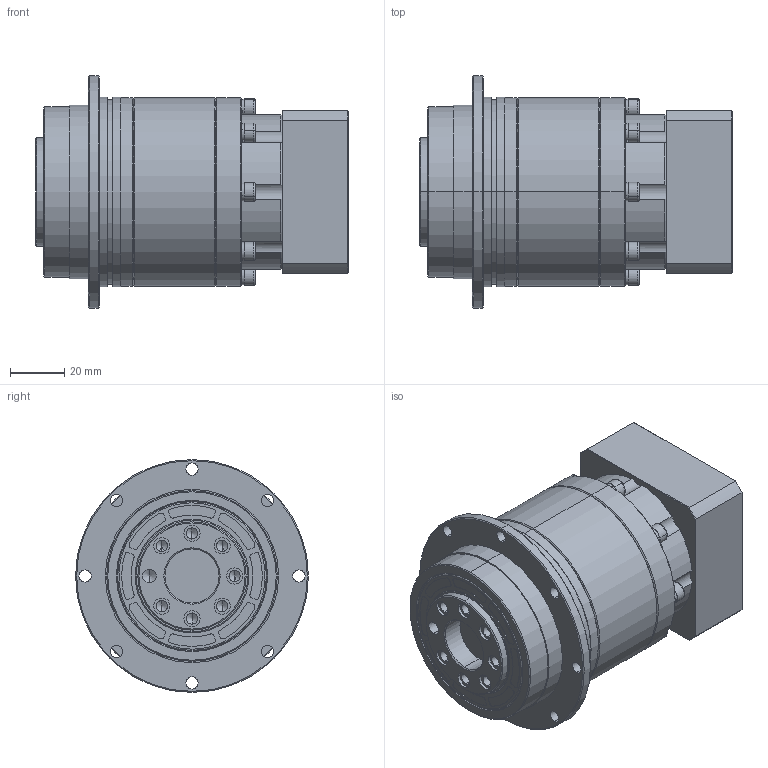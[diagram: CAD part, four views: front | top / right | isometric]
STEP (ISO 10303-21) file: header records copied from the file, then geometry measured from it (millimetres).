
FILE_DESCRIPTION (( 'STEP AP214' ), '1' );
FILE_NAME ('VRT-064-L2-P1 14-50-70-M4.STEP', '2023-08-15T01:02:21', ( '微软用户' ), ( '微软中国' ), 'SwSTEP 2.0', 'SolidWorks 2018', '' );
FILE_SCHEMA (( 'AUTOMOTIVE_DESIGN' ));
Length unit declared in the file: millimetre
Products named in the file (10): 萇儂楊擘 VRT-064-D50-M4-70F60H24.5; 笢潔楊擘VRT-064俋倛芞; 一级整体太阳轮夹套外形图VRT-064D14; hexagon socket head cap screws gb_GB_FASTENER_SCREWS_HSHCS M5X16-N; hex socket set screws with flat point gb_GB_FASTENER_SCREWS_HSFP M10X10-N; 一级齿圈 法兰盘VRT-064外形图; VRT-064-L2-P1 14-50-70-M4; spring lock washers--normal type gb_GB_FASTENER_WASHER_SW 4; hexagon socket head cap screws gb_GB_FASTENER_SCREWS_HSHCS M4X20-N; 二级齿圈VRT-064外形图
Assembly tree (35 placements, depth 2):
  VRT-064-L2-P1 14-50-70-M4
    一级齿圈 法兰盘VRT-064外形图
    笢潔楊擘VRT-064俋倛芞
    萇儂楊擘 VRT-064-D50-M4-70F60H24.5
    一级整体太阳轮夹套外形图VRT-064D14
    hexagon socket head cap screws gb_GB_FASTENER_SCREWS_HSHCS M4X20-N  x14
    spring lock washers--normal type gb_GB_FASTENER_WASHER_SW 4  x14
    hexagon socket head cap screws gb_GB_FASTENER_SCREWS_HSHCS M5X16-N
    hex socket set screws with flat point gb_GB_FASTENER_SCREWS_HSFP M10X10-N
    二级齿圈VRT-064外形图
Bounding box: 115.5 x 86 x 86 mm (x, y, z)
Volume: 269665.1 mm3; surface area: 83461.6 mm2
Topology: 36 solids, 36 shells, 1073 faces, 2609 edges, 1623 vertices
Faces by surface type: cylinder 423, plane 409, cone 209, bspline 32
Entity records: 19333 total; most frequent: CARTESIAN_POINT 3579, DIRECTION 3504, ORIENTED_EDGE 3002, EDGE_CURVE 1501, AXIS2_PLACEMENT_3D 1427, VERTEX_POINT 960, CIRCLE 777, EDGE_LOOP 731
